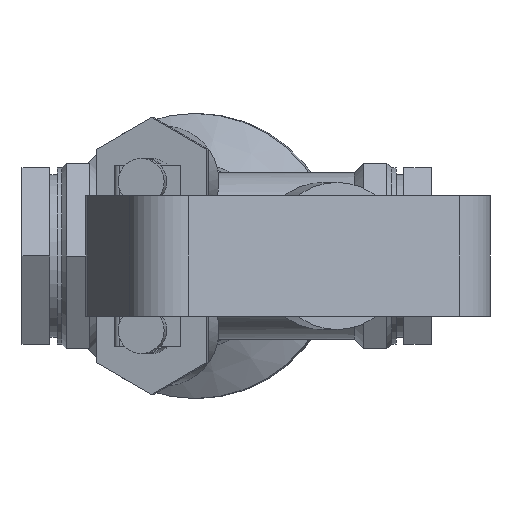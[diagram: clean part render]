
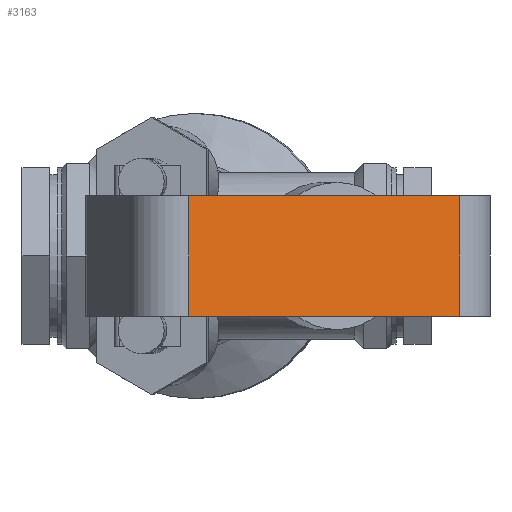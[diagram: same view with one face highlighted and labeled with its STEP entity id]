
A CAD part, front view. The second image highlights one B-rep face of the part: STEP entity #3163.
In plain terms, the highlighted planar face has unit normal (0.342, -0.94, 0).
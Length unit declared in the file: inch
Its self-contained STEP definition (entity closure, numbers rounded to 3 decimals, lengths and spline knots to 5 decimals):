
#112=PLANE('',#3499);
#252=FACE_OUTER_BOUND('',#437,.T.);
#437=EDGE_LOOP('',(#2220,#2221,#2222,#2223));
#630=LINE('',#5219,#880);
#637=LINE('',#5254,#887);
#638=LINE('',#5257,#888);
#639=LINE('',#5258,#889);
#880=VECTOR('',#3978,0.3937);
#887=VECTOR('',#4017,0.3937);
#888=VECTOR('',#4020,0.3937);
#889=VECTOR('',#4021,0.3937);
#1354=VERTEX_POINT('',#5216);
#1355=VERTEX_POINT('',#5218);
#1367=VERTEX_POINT('',#5252);
#1368=VERTEX_POINT('',#5256);
#1683=EDGE_CURVE('',#1354,#1355,#630,.T.);
#1700=EDGE_CURVE('',#1367,#1354,#637,.T.);
#1701=EDGE_CURVE('',#1368,#1367,#638,.T.);
#1702=EDGE_CURVE('',#1368,#1355,#639,.T.);
#2220=ORIENTED_EDGE('',*,*,#1700,.F.);
#2221=ORIENTED_EDGE('',*,*,#1701,.F.);
#2222=ORIENTED_EDGE('',*,*,#1702,.T.);
#2223=ORIENTED_EDGE('',*,*,#1683,.F.);
#3163=ADVANCED_FACE('',(#252),#112,.T.);
#3499=AXIS2_PLACEMENT_3D('',#5255,#4018,#4019);
#3978=DIRECTION('',(-0.94,-0.342,0.));
#4017=DIRECTION('',(0.,0.,-1.));
#4018=DIRECTION('center_axis',(0.342,-0.94,0.));
#4019=DIRECTION('ref_axis',(0.94,0.342,0.));
#4020=DIRECTION('',(0.94,0.342,0.));
#4021=DIRECTION('',(0.,0.,-1.));
#5216=CARTESIAN_POINT('',(2.50659,-4.64894,-0.65));
#5218=CARTESIAN_POINT('',(-0.40823,-5.70985,-0.65));
#5219=CARTESIAN_POINT('',(2.50659,-4.64894,-0.65));
#5252=CARTESIAN_POINT('',(2.50659,-4.64894,0.65));
#5254=CARTESIAN_POINT('',(2.50659,-4.64894,0.));
#5255=CARTESIAN_POINT('Origin',(-0.40823,-5.70985,0.));
#5256=CARTESIAN_POINT('',(-0.40823,-5.70985,0.65));
#5257=CARTESIAN_POINT('',(2.50659,-4.64894,0.65));
#5258=CARTESIAN_POINT('',(-0.40823,-5.70985,0.));
